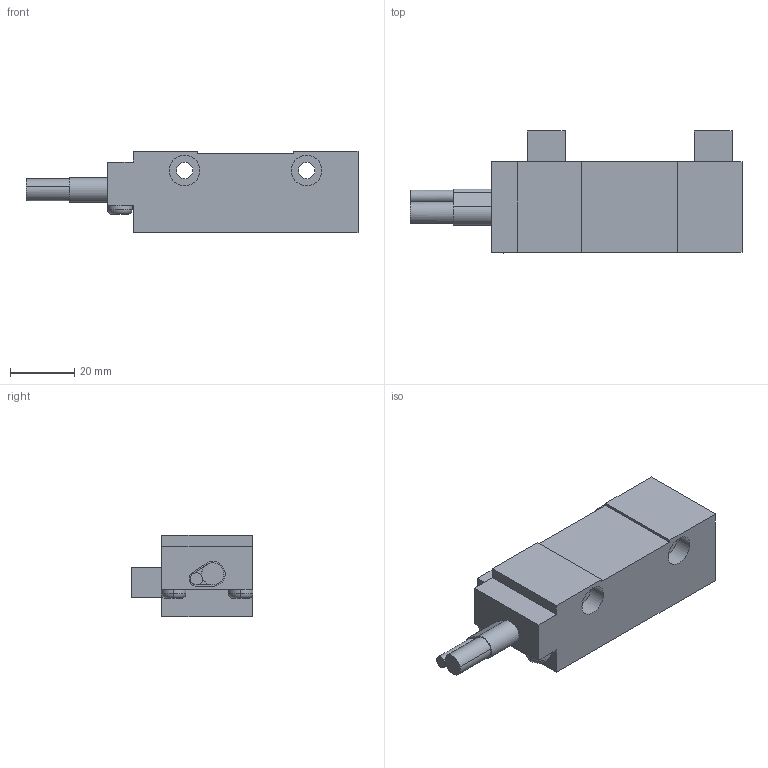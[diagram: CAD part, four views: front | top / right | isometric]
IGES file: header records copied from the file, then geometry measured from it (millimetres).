
Global section: file name: No Iges File Name specified; native system: AutoDesk Inventor R12.0; preprocessor: AutoDesk Inventor Iges Exporter R12.0; date: 20081121.153017; units: millimetre
Bounding box: 103.4 x 37.99 x 25.4 mm (x, y, z)
Volume: 53874.1 mm3; surface area: 13369.1 mm2
Topology: 1 solids, 1 shells, 95 faces, 230 edges, 134 vertices
Faces by surface type: bspline 42, plane 39, cylinder 10, torus 4
